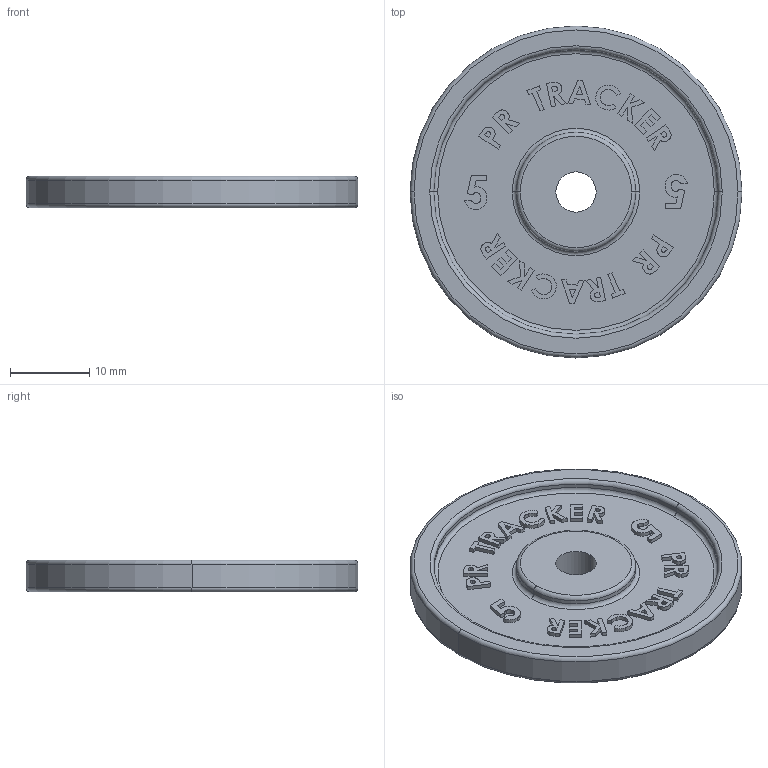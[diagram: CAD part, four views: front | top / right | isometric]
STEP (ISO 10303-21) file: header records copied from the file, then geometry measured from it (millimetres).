
FILE_DESCRIPTION (( 'STEP AP214' ), '1' );
FILE_NAME ('5.STEP', '2024-06-18T18:54:06', ( '' ), ( '' ), 'SwSTEP 2.0', 'SolidWorks 2022', '' );
FILE_SCHEMA (( 'AUTOMOTIVE_DESIGN' ));
Length unit declared in the file: millimetre
Products named in the file (1): 5
Bounding box: 42 x 42 x 4 mm (x, y, z)
Volume: 3003.7 mm3; surface area: 3893.1 mm2
Topology: 1 solids, 1 shells, 596 faces, 1572 edges, 1042 vertices
Faces by surface type: plane 430, bspline 136, torus 18, cylinder 12
Entity records: 26362 total; most frequent: CARTESIAN_POINT 12435, ORIENTED_EDGE 3144, DIRECTION 2282, EDGE_CURVE 1572, LINE 1240, VECTOR 1240, VERTEX_POINT 1042, EDGE_LOOP 662
